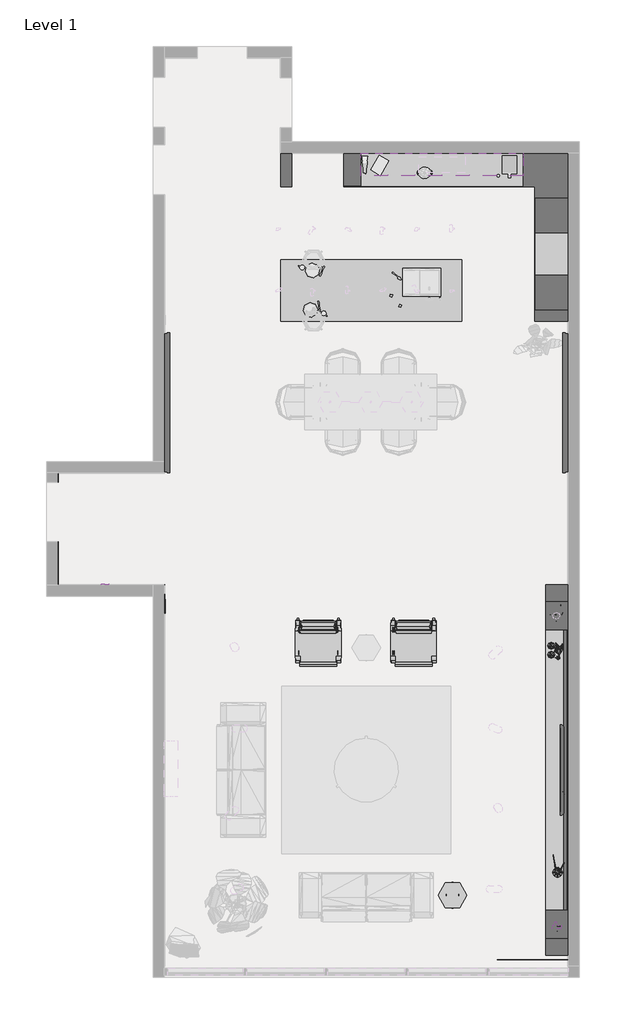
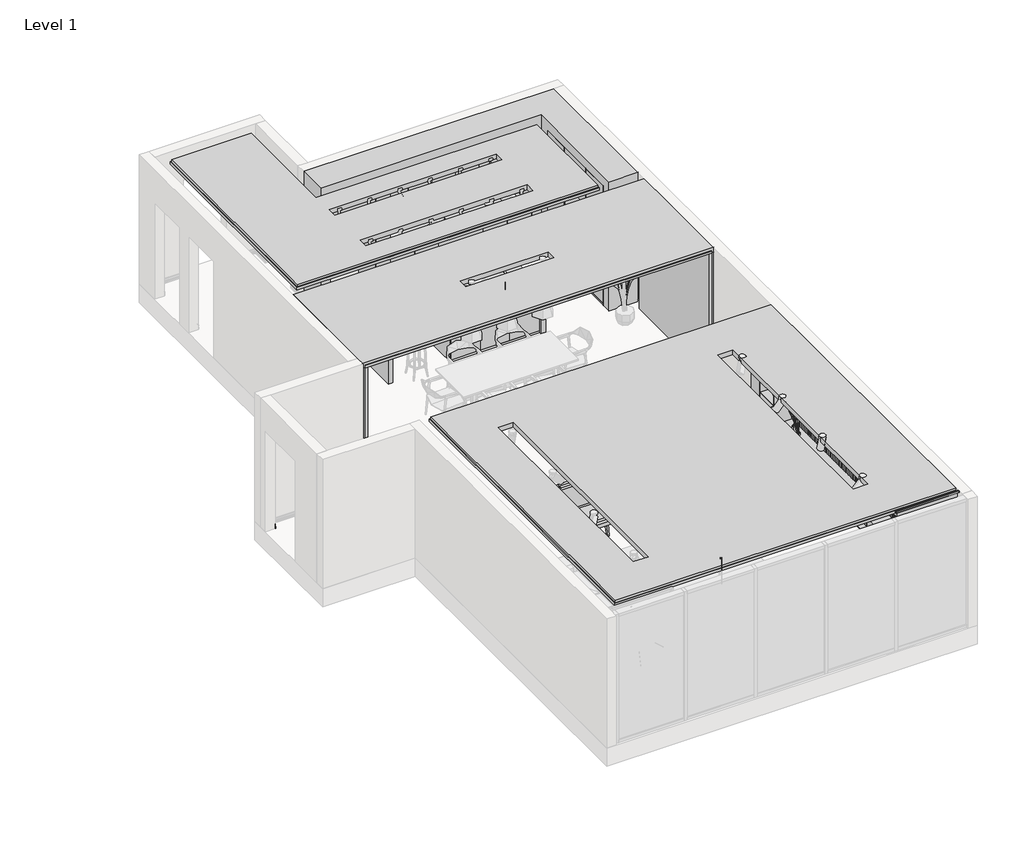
# One storey, part 2 of 4: 23 geographic elements, 9 proxies.
"""IFC4 building model written with IfcOpenShell, lengths in millimetres."""

from ifc_helpers import new_model, si_unit, frame, origin, place, context, project, spatial, polyline, circle_curve, ellipse_curve, transform, mapped, element, save
from ifc_brep_helpers import plane_surface, cylinder_surface, revolved_surface, advanced_brep
from components import generic_models_1_generic_models_1_6ccf1b33, generic_models_2_generic_models_2_3a1a0cb3, generic_models_3_generic_models_3_384174a5, generic_models_4_generic_models_4_fcc66a8b, generic_models_5_generic_models_5_4ff0fdc9, generic_models_6_generic_models_6_49623b60, generic_models_7_generic_models_7_ece231a0, geographic_element_75971b2c, geographic_element_7c65a5d7, geographic_element_906ff1fe, geographic_element_780d2d84, geographic_element_9156fac0, geographic_element_e6de441b, geographic_element_89dd2758, enscape_assetdefinition_armchair_027_enscape_assetdefinition_4c4723be, enscape_assetdefinition_books_003_enscape_assetdefinition_db4c60ca, enscape_assetdefinition_curtain_001_enscape_assetdefinition_ad6f74d6, enscape_assetdefinition_framed_photo_001_enscape_9ab4174a, enscape_assetdefinition_light_switch_001_enscape_6b1c9711, enscape_assetdefinition_power_socket_001_enscape_5ca5412b, enscape_assetdefinition_speaker_011_enscape_assetdefinition_b5ab8f96, enscape_assetdefinition_tv_002_enscape_assetdefinition_tv_89844956, enscape_assetdefinition_table_072_enscape_assetdefinition_da9baf0f, enscape_assetdefinition_vase_048_paper_palm_enscape_44c84509

model = new_model("IFC4")

# Units and contexts
model_context = context("Model", 3, world=origin())
ifc_project = project(units=[si_unit("LENGTHUNIT", "METRE", prefix="MILLI")], contexts=[model_context])

# Site, building, storey
site = spatial("IfcSite", under=ifc_project)
building = spatial("IfcBuilding", under=site)
storey = spatial("IfcBuildingStorey", under=building, Name="Level 1", Elevation=0.0)

# Proxies
placement = place(None, origin())
element("IfcBuildingElementProxy", 1, Name="Brick Soldier Course 2", ObjectType="Brick Soldier Course 2", at=placement, inside=storey, context=model_context, shape_type="AdvancedBrep", body=[
    advanced_brep(
    [(3277.9525098, 887.7866664, 100.0), (3277.9525098, 887.7866664, 0.0), (3291.0803378, 900.9144945, 0.0), (3285.5847618, 895.4189185, 16.7363778), (3284.220014, 894.0541707, 17.9313406), (3282.9525098, 892.7866664, 17.9313406), (3282.9525098, 892.7866664, 25.0), (3283.9895572, 893.8237139, 25.0), (3285.4407832, 895.2749399, 26.451226), (3285.4407832, 895.2749399, 48.5), (3283.9407832, 893.7749399, 50.0), (3280.4407832, 890.2749399, 50.0), (3280.4407832, 890.2749399, 90.0), (3281.5159518, 891.3501085, 90.0), (3282.9525098, 892.7866664, 91.4365579), (3282.9525098, 892.7866664, 95.9967275), (3278.9492372, 888.7833939, 100.0), (1377.9525098, 887.7866664, 100.0), (1377.9525098, 888.7833939, 100.0), (1377.9525098, 892.7866664, 95.9967275), (1377.9525098, 892.7866664, 91.4365579), (1377.9525098, 891.3501085, 90.0), (1377.9525098, 890.2749399, 90.0), (1377.9525098, 890.2749399, 50.0), (1377.9525098, 893.7749399, 50.0), (1377.9525098, 895.2749399, 48.5), (1377.9525098, 895.2749399, 26.451226), (1377.9525098, 893.8237139, 25.0), (1377.9525098, 892.7866664, 25.0), (1377.9525098, 892.7866664, 17.9313406), (1377.9525098, 894.0541707, 17.9313406), (1377.9525098, 895.4189185, 16.7363778), (1377.9525098, 900.9144945, 0.0), (1377.9525098, 887.7866664, 0.0)],
    [
        (0, 1),
        (1, 2),
        (2, 3, ellipse_curve(frame((3333.0974268, 942.9315835, 23.0672348), z_axis=(-0.7071067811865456, 0.7071067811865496, 0.0), x_axis=(-0.7071067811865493, -0.7071067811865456, 0.0)), 67.7869174, 47.932589)),
        (3, 4, ellipse_curve(frame((3284.220014, 894.0541707, 16.554531), z_axis=(0.7071067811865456, -0.7071067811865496, 0.0), x_axis=(0.7071067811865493, 0.7071067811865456, 0.0)), 1.9471028, 1.3768096)),
        (4, 5),
        (5, 6),
        (6, 7),
        (7, 8, ellipse_curve(frame((3283.9895572, 893.8237139, 26.451226), z_axis=(0.7071067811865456, -0.7071067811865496, 0.0), x_axis=(0.7071067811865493, 0.7071067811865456, 0.0)), 2.0523435, 1.451226)),
        (8, 9),
        (9, 10, ellipse_curve(frame((3283.9407832, 893.7749399, 48.5), z_axis=(0.7071067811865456, -0.7071067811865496, 0.0), x_axis=(0.7071067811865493, 0.7071067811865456, 0.0)), 2.1213203, 1.5)),
        (10, 11),
        (11, 12),
        (12, 13),
        (13, 14, ellipse_curve(frame((3281.5159518, 891.3501085, 91.4365579), z_axis=(0.7071067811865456, -0.7071067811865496, 0.0), x_axis=(0.7071067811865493, 0.7071067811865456, 0.0)), 2.0315997, 1.4365579)),
        (14, 15),
        (15, 16, ellipse_curve(frame((3278.9492372, 888.7833939, 95.9967275), z_axis=(0.7071067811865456, -0.7071067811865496, 0.0), x_axis=(0.7071067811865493, 0.7071067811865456, 0.0)), 5.6614823, 4.0032725)),
        (16, 0),
        (17, 18),
        (18, 19, circle_curve(frame((1377.9525098, 888.7833939, 95.9967275), z_axis=(-1.0, 0.0, 0.0), x_axis=(0.0, 1.0, 0.0)), 4.0032725)),
        (19, 20),
        (20, 21, circle_curve(frame((1377.9525098, 891.3501085, 91.4365579), z_axis=(-1.0, 0.0, 0.0), x_axis=(0.0, 1.0, 0.0)), 1.4365579)),
        (21, 22),
        (22, 23),
        (23, 24),
        (24, 25, circle_curve(frame((1377.9525098, 893.7749399, 48.5), z_axis=(-1.0, 0.0, 0.0), x_axis=(0.0, 1.0, 0.0)), 1.5)),
        (25, 26),
        (26, 27, circle_curve(frame((1377.9525098, 893.8237139, 26.451226), z_axis=(-1.0, 0.0, 0.0), x_axis=(0.0, 1.0, 0.0)), 1.451226)),
        (27, 28),
        (28, 29),
        (29, 30),
        (30, 31, circle_curve(frame((1377.9525098, 894.0541707, 16.554531), z_axis=(-1.0, 0.0, 0.0), x_axis=(0.0, 1.0, 0.0)), 1.3768096)),
        (31, 32, circle_curve(frame((1377.9525098, 942.9315835, 23.0672348), z_axis=(1.0, 0.0, 0.0), x_axis=(0.0, 1.0, 0.0)), 47.932589)),
        (32, 33),
        (33, 17),
        (0, 17),
        (33, 1),
        (32, 2),
        (31, 3),
        (30, 4),
        (29, 5),
        (28, 6),
        (27, 7),
        (26, 8),
        (25, 9),
        (24, 10),
        (23, 11),
        (22, 12),
        (21, 13),
        (20, 14),
        (19, 15),
        (18, 16),
    ],
    [
        plane_surface(frame((3277.9525098, 887.7866664, -304.8), z_axis=(0.7071067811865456, -0.7071067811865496, 0.0), x_axis=(-0.7071067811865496, -0.7071067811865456, 0.0))),
        plane_surface(frame((1377.9525098, 887.7866664, -100.0049672), z_axis=(-1.0, 0.0, 0.0), x_axis=(0.0, -1.0, 0.0))),
        plane_surface(frame((3277.9525098, 887.7866664, 100.0), z_axis=(0.0, -1.0, 0.0), x_axis=(-1.0, 0.0, 0.0))),
        plane_surface(frame((3277.9525098, 887.7866664, 0.0), z_axis=(0.0, 0.0, -1.0), x_axis=(-1.0, 0.0, 0.0))),
        revolved_surface(polyline([(1377.9525098, 990.8641725, 23.0672348), (3381.0300157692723, 990.8641725, 23.0672348)]), (3277.9525098, 942.9315835, 23.0672348), (-1.0, 0.0, 0.0)),
        cylinder_surface(frame((3277.9525098, 894.0541707, 16.554531), z_axis=(1.0, 0.0, 0.0), x_axis=(0.0, 1.0, 0.0)), 1.3768096),
        plane_surface(frame((3284.220014, 894.0541707, 17.9313406), z_axis=(0.0, 0.0, 1.0), x_axis=(-1.0, 0.0, 0.0))),
        plane_surface(frame((3282.9525098, 892.7866664, 17.9313406), z_axis=(0.0, 1.0, 0.0), x_axis=(-1.0, 0.0, 0.0))),
        plane_surface(frame((3282.9525098, 892.7866664, 25.0), z_axis=(0.0, 0.0, -1.0), x_axis=(-1.0, 0.0, 0.0))),
        cylinder_surface(frame((3277.9525098, 893.8237139, 26.451226), z_axis=(1.0, 0.0, 0.0), x_axis=(0.0, 1.0, 0.0)), 1.451226),
        plane_surface(frame((3285.4407832, 895.2749399, 26.451226), z_axis=(0.0, 1.0, 0.0), x_axis=(-1.0, 0.0, 0.0))),
        cylinder_surface(frame((3277.9525098, 893.7749399, 48.5), z_axis=(1.0, 0.0, 0.0), x_axis=(0.0, 1.0, 0.0)), 1.5),
        plane_surface(frame((3283.9407832, 893.7749399, 50.0), z_axis=(0.0, 0.0, 1.0), x_axis=(-1.0, 0.0, 0.0))),
        plane_surface(frame((3280.4407832, 890.2749399, 50.0), z_axis=(0.0, 1.0, 0.0), x_axis=(-1.0, 0.0, 0.0))),
        plane_surface(frame((3280.4407832, 890.2749399, 90.0), z_axis=(0.0, 0.0, -1.0), x_axis=(-1.0, 0.0, 0.0))),
        cylinder_surface(frame((3277.9525098, 891.3501085, 91.4365579), z_axis=(1.0, 0.0, 0.0), x_axis=(0.0, 1.0, 0.0)), 1.4365579),
        plane_surface(frame((3282.9525098, 892.7866664, 91.4365579), z_axis=(0.0, 1.0, 0.0), x_axis=(-1.0, 0.0, 0.0))),
        cylinder_surface(frame((3277.9525098, 888.7833939, 95.9967275), z_axis=(1.0, 0.0, 0.0), x_axis=(0.0, 1.0, 0.0)), 4.0032725),
        plane_surface(frame((3278.9492372, 888.7833939, 100.0), z_axis=(0.0, 0.0, 1.0), x_axis=(-1.0, 0.0, 0.0))),
    ],
    [
        (0, [[1, 2, 3, 4, 5, 6, 7, 8, 9, 10, 11, 12, 13, 14, 15, 16, 17]]),
        (1, [[18, 19, 20, 21, 22, 23, 24, 25, 26, 27, 28, 29, 30, 31, 32, 33, 34]]),
        (2, [[-1, 35, -34, 36]]),
        (3, [[-2, -36, -33, 37]]),
        (4, [[-3, -37, -32, 38]]),
        (5, [[-4, -38, -31, 39]]),
        (6, [[-5, -39, -30, 40]]),
        (7, [[-6, -40, -29, 41]]),
        (8, [[-7, -41, -28, 42]]),
        (9, [[-8, -42, -27, 43]]),
        (10, [[-9, -43, -26, 44]]),
        (11, [[-10, -44, -25, 45]]),
        (12, [[-11, -45, -24, 46]]),
        (13, [[-12, -46, -23, 47]]),
        (14, [[-13, -47, -22, 48]]),
        (15, [[-14, -48, -21, 49]]),
        (16, [[-15, -49, -20, 50]]),
        (17, [[-16, -50, -19, 51]]),
        (18, [[-17, -51, -18, -35]]),
    ],
),
])
element("IfcBuildingElementProxy", 2, Name="Brick Soldier Course 2", ObjectType="Brick Soldier Course 2", at=placement, inside=storey, context=model_context, shape_type="AdvancedBrep", body=[
    advanced_brep(
    [(1377.9525098, 2717.7866664, 100.0), (1377.9525098, 2717.7866664, 0.0), (1391.0803378, 2717.7866664, 0.0), (1385.5847618, 2717.7866664, 16.7363778), (1384.220014, 2717.7866664, 17.9313406), (1382.9525098, 2717.7866664, 17.9313406), (1382.9525098, 2717.7866664, 25.0), (1383.9895572, 2717.7866664, 25.0), (1385.4407832, 2717.7866664, 26.451226), (1385.4407832, 2717.7866664, 48.5), (1383.9407832, 2717.7866664, 50.0), (1380.4407832, 2717.7866664, 50.0), (1380.4407832, 2717.7866664, 90.0), (1381.5159518, 2717.7866664, 90.0), (1382.9525098, 2717.7866664, 91.4365579), (1382.9525098, 2717.7866664, 95.9967275), (1378.9492372, 2717.7866664, 100.0), (1377.9525098, 2887.7866664, 100.0), (1378.9492372, 2886.7899389, 100.0), (1382.9525098, 2882.7866664, 95.9967275), (1382.9525098, 2882.7866664, 91.4365579), (1381.5159518, 2884.2232244, 90.0), (1380.4407832, 2885.298393, 90.0), (1380.4407832, 2885.298393, 50.0), (1383.9407832, 2881.798393, 50.0), (1385.4407832, 2880.298393, 48.5), (1385.4407832, 2880.298393, 26.451226), (1383.9895572, 2881.749619, 25.0), (1382.9525098, 2882.7866664, 25.0), (1382.9525098, 2882.7866664, 17.9313406), (1384.220014, 2881.5191621, 17.9313406), (1385.5847618, 2880.1544144, 16.7363778), (1391.0803378, 2874.6588383, 0.0), (1377.9525098, 2887.7866664, 0.0)],
    [
        (0, 1),
        (1, 2),
        (2, 3, circle_curve(frame((1433.0974268, 2717.7866664, 23.0672348), z_axis=(0.0, 1.0, 0.0), x_axis=(1.0, 0.0, 0.0)), 47.932589)),
        (3, 4, circle_curve(frame((1384.220014, 2717.7866664, 16.554531), z_axis=(0.0, -1.0, 0.0), x_axis=(1.0, 0.0, 0.0)), 1.3768096)),
        (4, 5),
        (5, 6),
        (6, 7),
        (7, 8, circle_curve(frame((1383.9895572, 2717.7866664, 26.451226), z_axis=(0.0, -1.0, 0.0), x_axis=(1.0, 0.0, 0.0)), 1.451226)),
        (8, 9),
        (9, 10, circle_curve(frame((1383.9407832, 2717.7866664, 48.5), z_axis=(0.0, -1.0, 0.0), x_axis=(1.0, 0.0, 0.0)), 1.5)),
        (10, 11),
        (11, 12),
        (12, 13),
        (13, 14, circle_curve(frame((1381.5159518, 2717.7866664, 91.4365579), z_axis=(0.0, -1.0, 0.0), x_axis=(1.0, 0.0, 0.0)), 1.4365579)),
        (14, 15),
        (15, 16, circle_curve(frame((1378.9492372, 2717.7866664, 95.9967275), z_axis=(0.0, -1.0, 0.0), x_axis=(1.0, 0.0, 0.0)), 4.0032725)),
        (16, 0),
        (17, 18),
        (18, 19, ellipse_curve(frame((1378.9492372, 2886.7899389, 95.9967275), z_axis=(0.7071067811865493, 0.7071067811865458, 0.0), x_axis=(0.7071067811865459, -0.7071067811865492, 0.0)), 5.6614823, 4.0032725)),
        (19, 20),
        (20, 21, ellipse_curve(frame((1381.5159518, 2884.2232244, 91.4365579), z_axis=(0.7071067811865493, 0.7071067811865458, 0.0), x_axis=(0.7071067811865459, -0.7071067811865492, 0.0)), 2.0315997, 1.4365579)),
        (21, 22),
        (22, 23),
        (23, 24),
        (24, 25, ellipse_curve(frame((1383.9407832, 2881.798393, 48.5), z_axis=(0.7071067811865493, 0.7071067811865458, 0.0), x_axis=(0.7071067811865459, -0.7071067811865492, 0.0)), 2.1213203, 1.5)),
        (25, 26),
        (26, 27, ellipse_curve(frame((1383.9895572, 2881.749619, 26.451226), z_axis=(0.7071067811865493, 0.7071067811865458, 0.0), x_axis=(0.7071067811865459, -0.7071067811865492, 0.0)), 2.0523435, 1.451226)),
        (27, 28),
        (28, 29),
        (29, 30),
        (30, 31, ellipse_curve(frame((1384.220014, 2881.5191621, 16.554531), z_axis=(0.7071067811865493, 0.7071067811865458, 0.0), x_axis=(0.7071067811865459, -0.7071067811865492, 0.0)), 1.9471028, 1.3768096)),
        (31, 32, ellipse_curve(frame((1433.0974268, 2832.6417494, 23.0672348), z_axis=(-0.7071067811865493, -0.7071067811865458, 0.0), x_axis=(-0.7071067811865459, 0.7071067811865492, 0.0)), 67.7869174, 47.932589)),
        (32, 33),
        (33, 17),
        (0, 17),
        (33, 1),
        (32, 2),
        (31, 3),
        (30, 4),
        (29, 5),
        (28, 6),
        (27, 7),
        (26, 8),
        (25, 9),
        (24, 10),
        (23, 11),
        (22, 12),
        (21, 13),
        (20, 14),
        (19, 15),
        (18, 16),
    ],
    [
        plane_surface(frame((1277.9475425, 2717.7866664, 0.0), z_axis=(0.0, -1.0, 0.0), x_axis=(0.0, 0.0, 1.0))),
        plane_surface(frame((1377.9525098, 2887.7866664, 304.8), z_axis=(0.7071067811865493, 0.7071067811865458, 0.0), x_axis=(0.7071067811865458, -0.7071067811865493, 0.0))),
        plane_surface(frame((1377.9525098, 2717.7866664, 100.0), z_axis=(-1.0, 0.0, 0.0), x_axis=(0.0, 1.0, 0.0))),
        plane_surface(frame((1377.9525098, 2717.7866664, 0.0), z_axis=(0.0, 0.0, -1.0), x_axis=(0.0, 1.0, 0.0))),
        revolved_surface(polyline([(1481.0300158, 2880.5743383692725, 23.0672348), (1481.0300158, 2717.7866664, 23.0672348)]), (1433.0974268, 2717.7866664, 23.0672348), (0.0, 1.0, 0.0)),
        cylinder_surface(frame((1384.220014, 2717.7866664, 16.554531), z_axis=(0.0, -1.0, 0.0), x_axis=(1.0, 0.0, 0.0)), 1.3768096),
        plane_surface(frame((1384.220014, 2717.7866664, 17.9313406), z_axis=(0.0, 0.0, 1.0), x_axis=(0.0, 1.0, 0.0))),
        plane_surface(frame((1382.9525098, 2717.7866664, 17.9313406), z_axis=(1.0, 0.0, 0.0), x_axis=(0.0, 1.0, 0.0))),
        plane_surface(frame((1382.9525098, 2717.7866664, 25.0), z_axis=(0.0, 0.0, -1.0), x_axis=(0.0, 1.0, 0.0))),
        cylinder_surface(frame((1383.9895572, 2717.7866664, 26.451226), z_axis=(0.0, -1.0, 0.0), x_axis=(1.0, 0.0, 0.0)), 1.451226),
        plane_surface(frame((1385.4407832, 2717.7866664, 26.451226), z_axis=(1.0, 0.0, 0.0), x_axis=(0.0, 1.0, 0.0))),
        cylinder_surface(frame((1383.9407832, 2717.7866664, 48.5), z_axis=(0.0, -1.0, 0.0), x_axis=(1.0, 0.0, 0.0)), 1.5),
        plane_surface(frame((1383.9407832, 2717.7866664, 50.0), z_axis=(0.0, 0.0, 1.0), x_axis=(0.0, 1.0, 0.0))),
        plane_surface(frame((1380.4407832, 2717.7866664, 50.0), z_axis=(1.0, 0.0, 0.0), x_axis=(0.0, 1.0, 0.0))),
        plane_surface(frame((1380.4407832, 2717.7866664, 90.0), z_axis=(0.0, 0.0, -1.0), x_axis=(0.0, 1.0, 0.0))),
        cylinder_surface(frame((1381.5159518, 2717.7866664, 91.4365579), z_axis=(0.0, -1.0, 0.0), x_axis=(1.0, 0.0, 0.0)), 1.4365579),
        plane_surface(frame((1382.9525098, 2717.7866664, 91.4365579), z_axis=(1.0, 0.0, 0.0), x_axis=(0.0, 1.0, 0.0))),
        cylinder_surface(frame((1378.9492372, 2717.7866664, 95.9967275), z_axis=(0.0, -1.0, 0.0), x_axis=(1.0, 0.0, 0.0)), 4.0032725),
        plane_surface(frame((1378.9492372, 2717.7866664, 100.0), z_axis=(0.0, 0.0, 1.0), x_axis=(0.0, 1.0, 0.0))),
    ],
    [
        (0, [[1, 2, 3, 4, 5, 6, 7, 8, 9, 10, 11, 12, 13, 14, 15, 16, 17]]),
        (1, [[18, 19, 20, 21, 22, 23, 24, 25, 26, 27, 28, 29, 30, 31, 32, 33, 34]]),
        (2, [[-1, 35, -34, 36]]),
        (3, [[-2, -36, -33, 37]]),
        (4, [[-3, -37, -32, 38]]),
        (5, [[-4, -38, -31, 39]]),
        (6, [[-5, -39, -30, 40]]),
        (7, [[-6, -40, -29, 41]]),
        (8, [[-7, -41, -28, 42]]),
        (9, [[-8, -42, -27, 43]]),
        (10, [[-9, -43, -26, 44]]),
        (11, [[-10, -44, -25, 45]]),
        (12, [[-11, -45, -24, 46]]),
        (13, [[-12, -46, -23, 47]]),
        (14, [[-13, -47, -22, 48]]),
        (15, [[-14, -48, -21, 49]]),
        (16, [[-15, -49, -20, 50]]),
        (17, [[-16, -50, -19, 51]]),
        (18, [[-17, -51, -18, -35]]),
    ],
),
    advanced_brep(
    [(1377.9525098, 887.7866664, 100.0), (1377.9525098, 887.7866664, 0.0), (1391.0803378, 900.9144945, 0.0), (1385.5847618, 895.4189185, 16.7363778), (1384.220014, 894.0541707, 17.9313406), (1382.9525098, 892.7866664, 17.9313406), (1382.9525098, 892.7866664, 25.0), (1383.9895572, 893.8237139, 25.0), (1385.4407832, 895.2749399, 26.451226), (1385.4407832, 895.2749399, 48.5), (1383.9407832, 893.7749399, 50.0), (1380.4407832, 890.2749399, 50.0), (1380.4407832, 890.2749399, 90.0), (1381.5159518, 891.3501085, 90.0), (1382.9525098, 892.7866664, 91.4365579), (1382.9525098, 892.7866664, 95.9967275), (1378.9492372, 888.7833939, 100.0), (1377.9525098, 1657.7866664, 100.0), (1378.9492372, 1657.7866664, 100.0), (1382.9525098, 1657.7866664, 95.9967275), (1382.9525098, 1657.7866664, 91.4365579), (1381.5159518, 1657.7866664, 90.0), (1380.4407832, 1657.7866664, 90.0), (1380.4407832, 1657.7866664, 50.0), (1383.9407832, 1657.7866664, 50.0), (1385.4407832, 1657.7866664, 48.5), (1385.4407832, 1657.7866664, 26.451226), (1383.9895572, 1657.7866664, 25.0), (1382.9525098, 1657.7866664, 25.0), (1382.9525098, 1657.7866664, 17.9313406), (1384.220014, 1657.7866664, 17.9313406), (1385.5847618, 1657.7866664, 16.7363778), (1391.0803378, 1657.7866664, 0.0), (1377.9525098, 1657.7866664, 0.0)],
    [
        (0, 1),
        (1, 2),
        (2, 3, ellipse_curve(frame((1433.0974268, 942.9315835, 23.0672348), z_axis=(-0.707106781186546, 0.7071067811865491, 0.0), x_axis=(0.7071067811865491, 0.7071067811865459, 0.0)), 67.7869174, 47.932589)),
        (3, 4, ellipse_curve(frame((1384.220014, 894.0541707, 16.554531), z_axis=(0.707106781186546, -0.7071067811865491, 0.0), x_axis=(-0.7071067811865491, -0.7071067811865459, 0.0)), 1.9471028, 1.3768096)),
        (4, 5),
        (5, 6),
        (6, 7),
        (7, 8, ellipse_curve(frame((1383.9895572, 893.8237139, 26.451226), z_axis=(0.707106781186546, -0.7071067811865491, 0.0), x_axis=(-0.7071067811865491, -0.7071067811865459, 0.0)), 2.0523435, 1.451226)),
        (8, 9),
        (9, 10, ellipse_curve(frame((1383.9407832, 893.7749399, 48.5), z_axis=(0.707106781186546, -0.7071067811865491, 0.0), x_axis=(-0.7071067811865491, -0.7071067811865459, 0.0)), 2.1213203, 1.5)),
        (10, 11),
        (11, 12),
        (12, 13),
        (13, 14, ellipse_curve(frame((1381.5159518, 891.3501085, 91.4365579), z_axis=(0.707106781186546, -0.7071067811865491, 0.0), x_axis=(-0.7071067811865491, -0.7071067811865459, 0.0)), 2.0315997, 1.4365579)),
        (14, 15),
        (15, 16, ellipse_curve(frame((1378.9492372, 888.7833939, 95.9967275), z_axis=(0.707106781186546, -0.7071067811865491, 0.0), x_axis=(-0.7071067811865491, -0.7071067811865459, 0.0)), 5.6614823, 4.0032725)),
        (16, 0),
        (17, 18),
        (18, 19, circle_curve(frame((1378.9492372, 1657.7866664, 95.9967275), z_axis=(0.0, 1.0, 0.0), x_axis=(1.0, 0.0, 0.0)), 4.0032725)),
        (19, 20),
        (20, 21, circle_curve(frame((1381.5159518, 1657.7866664, 91.4365579), z_axis=(0.0, 1.0, 0.0), x_axis=(1.0, 0.0, 0.0)), 1.4365579)),
        (21, 22),
        (22, 23),
        (23, 24),
        (24, 25, circle_curve(frame((1383.9407832, 1657.7866664, 48.5), z_axis=(0.0, 1.0, 0.0), x_axis=(1.0, 0.0, 0.0)), 1.5)),
        (25, 26),
        (26, 27, circle_curve(frame((1383.9895572, 1657.7866664, 26.451226), z_axis=(0.0, 1.0, 0.0), x_axis=(1.0, 0.0, 0.0)), 1.451226)),
        (27, 28),
        (28, 29),
        (29, 30),
        (30, 31, circle_curve(frame((1384.220014, 1657.7866664, 16.554531), z_axis=(0.0, 1.0, 0.0), x_axis=(1.0, 0.0, 0.0)), 1.3768096)),
        (31, 32, circle_curve(frame((1433.0974268, 1657.7866664, 23.0672348), z_axis=(0.0, -1.0, 0.0), x_axis=(1.0, 0.0, 0.0)), 47.932589)),
        (32, 33),
        (33, 17),
        (0, 17),
        (33, 1),
        (32, 2),
        (31, 3),
        (30, 4),
        (29, 5),
        (28, 6),
        (27, 7),
        (26, 8),
        (25, 9),
        (24, 10),
        (23, 11),
        (22, 12),
        (21, 13),
        (20, 14),
        (19, 15),
        (18, 16),
    ],
    [
        plane_surface(frame((1377.9525098, 887.7866664, 304.8), z_axis=(0.707106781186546, -0.7071067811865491, 0.0), x_axis=(0.7071067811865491, 0.707106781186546, 0.0))),
        plane_surface(frame((1277.9475425, 1657.7866664, 0.0), z_axis=(0.0, 1.0, 0.0), x_axis=(0.0, 0.0, 1.0))),
        plane_surface(frame((1377.9525098, 887.7866664, 100.0), z_axis=(-1.0, 0.0, 0.0), x_axis=(0.0, 1.0, 0.0))),
        plane_surface(frame((1377.9525098, 887.7866664, 0.0), z_axis=(0.0, 0.0, -1.0), x_axis=(0.0, 1.0, 0.0))),
        revolved_surface(polyline([(1481.0300158, 1657.7866664, 23.0672348), (1481.0300158, 894.9989945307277, 23.0672348)]), (1433.0974268, 887.7866664, 23.0672348), (0.0, 1.0, 0.0)),
        cylinder_surface(frame((1384.220014, 887.7866664, 16.554531), z_axis=(0.0, -1.0, 0.0), x_axis=(1.0, 0.0, 0.0)), 1.3768096),
        plane_surface(frame((1384.220014, 894.0541707, 17.9313406), z_axis=(0.0, 0.0, 1.0), x_axis=(0.0, 1.0, 0.0))),
        plane_surface(frame((1382.9525098, 892.7866664, 17.9313406), z_axis=(1.0, 0.0, 0.0), x_axis=(0.0, 1.0, 0.0))),
        plane_surface(frame((1382.9525098, 892.7866664, 25.0), z_axis=(0.0, 0.0, -1.0), x_axis=(0.0, 1.0, 0.0))),
        cylinder_surface(frame((1383.9895572, 887.7866664, 26.451226), z_axis=(0.0, -1.0, 0.0), x_axis=(1.0, 0.0, 0.0)), 1.451226),
        plane_surface(frame((1385.4407832, 895.2749399, 26.451226), z_axis=(1.0, 0.0, 0.0), x_axis=(0.0, 1.0, 0.0))),
        cylinder_surface(frame((1383.9407832, 887.7866664, 48.5), z_axis=(0.0, -1.0, 0.0), x_axis=(1.0, 0.0, 0.0)), 1.5),
        plane_surface(frame((1383.9407832, 893.7749399, 50.0), z_axis=(0.0, 0.0, 1.0), x_axis=(0.0, 1.0, 0.0))),
        plane_surface(frame((1380.4407832, 890.2749399, 50.0), z_axis=(1.0, 0.0, 0.0), x_axis=(0.0, 1.0, 0.0))),
        plane_surface(frame((1380.4407832, 890.2749399, 90.0), z_axis=(0.0, 0.0, -1.0), x_axis=(0.0, 1.0, 0.0))),
        cylinder_surface(frame((1381.5159518, 887.7866664, 91.4365579), z_axis=(0.0, -1.0, 0.0), x_axis=(1.0, 0.0, 0.0)), 1.4365579),
        plane_surface(frame((1382.9525098, 892.7866664, 91.4365579), z_axis=(1.0, 0.0, 0.0), x_axis=(0.0, 1.0, 0.0))),
        cylinder_surface(frame((1378.9492372, 887.7866664, 95.9967275), z_axis=(0.0, -1.0, 0.0), x_axis=(1.0, 0.0, 0.0)), 4.0032725),
        plane_surface(frame((1378.9492372, 888.7833939, 100.0), z_axis=(0.0, 0.0, 1.0), x_axis=(0.0, 1.0, 0.0))),
    ],
    [
        (0, [[1, 2, 3, 4, 5, 6, 7, 8, 9, 10, 11, 12, 13, 14, 15, 16, 17]]),
        (1, [[18, 19, 20, 21, 22, 23, 24, 25, 26, 27, 28, 29, 30, 31, 32, 33, 34]]),
        (2, [[-1, 35, -34, 36]]),
        (3, [[-2, -36, -33, 37]]),
        (4, [[-3, -37, -32, 38]]),
        (5, [[-4, -38, -31, 39]]),
        (6, [[-5, -39, -30, 40]]),
        (7, [[-6, -40, -29, 41]]),
        (8, [[-7, -41, -28, 42]]),
        (9, [[-8, -42, -27, 43]]),
        (10, [[-9, -43, -26, 44]]),
        (11, [[-10, -44, -25, 45]]),
        (12, [[-11, -45, -24, 46]]),
        (13, [[-12, -46, -23, 47]]),
        (14, [[-13, -47, -22, 48]]),
        (15, [[-14, -48, -21, 49]]),
        (16, [[-15, -49, -20, 50]]),
        (17, [[-16, -50, -19, 51]]),
        (18, [[-17, -51, -18, -35]]),
    ],
),
])
generic_models_1_generic_models_1_shape = generic_models_1_generic_models_1_6ccf1b33(model_context)
element("IfcBuildingElementProxy", 3, Name="Generic Models 1 : Generic Models 1", ObjectType="Generic Models 1 : Generic Models 1", at=placement, inside=storey, context=model_context, shape_type="MappedRepresentation", body=[
    mapped(generic_models_1_generic_models_1_shape, transform((0.0, 0.0, 0.0), x_axis=(1.0, 0.0, 0.0), y_axis=(0.0, 1.0, 0.0), z_axis=(0.0, 0.0, 1.0))),
])
generic_models_2_generic_models_2_shape = generic_models_2_generic_models_2_3a1a0cb3(model_context)
element("IfcBuildingElementProxy", 4, Name="Generic Models 2 : Generic Models 2", ObjectType="Generic Models 2 : Generic Models 2", at=placement, inside=storey, context=model_context, shape_type="MappedRepresentation", body=[
    mapped(generic_models_2_generic_models_2_shape, transform((0.0, 0.0, 0.0), x_axis=(1.0, 0.0, 0.0), y_axis=(0.0, 1.0, 0.0), z_axis=(0.0, 0.0, 1.0))),
])
generic_models_3_generic_models_3_shape = generic_models_3_generic_models_3_384174a5(model_context)
element("IfcBuildingElementProxy", 5, Name="Generic Models 3 : Generic Models 3", ObjectType="Generic Models 3 : Generic Models 3", at=placement, inside=storey, context=model_context, shape_type="MappedRepresentation", body=[
    mapped(generic_models_3_generic_models_3_shape, transform((0.0, 0.0, 0.0), x_axis=(1.0, 0.0, 0.0), y_axis=(0.0, 1.0, 0.0), z_axis=(0.0, 0.0, 1.0))),
])
generic_models_4_generic_models_4_shape = generic_models_4_generic_models_4_fcc66a8b(model_context)
element("IfcBuildingElementProxy", 6, Name="Generic Models 4 : Generic Models 4", ObjectType="Generic Models 4 : Generic Models 4", at=placement, inside=storey, context=model_context, shape_type="MappedRepresentation", body=[
    mapped(generic_models_4_generic_models_4_shape, transform((0.0, 0.0, 0.0), x_axis=(1.0, 0.0, 0.0), y_axis=(0.0, 1.0, 0.0), z_axis=(0.0, 0.0, 1.0))),
])
generic_models_5_generic_models_5_shape = generic_models_5_generic_models_5_4ff0fdc9(model_context)
element("IfcBuildingElementProxy", 7, Name="Generic Models 5 : Generic Models 5", ObjectType="Generic Models 5 : Generic Models 5", at=placement, inside=storey, context=model_context, shape_type="MappedRepresentation", body=[
    mapped(generic_models_5_generic_models_5_shape, transform((0.0, 0.0, 0.0), x_axis=(1.0, 0.0, 0.0), y_axis=(0.0, 1.0, 0.0), z_axis=(0.0, 0.0, 1.0))),
])
generic_models_6_generic_models_6_shape = generic_models_6_generic_models_6_49623b60(model_context)
element("IfcBuildingElementProxy", 8, Name="Generic Models 6 : Generic Models 6", ObjectType="Generic Models 6 : Generic Models 6", at=placement, inside=storey, context=model_context, shape_type="MappedRepresentation", body=[
    mapped(generic_models_6_generic_models_6_shape, transform((0.0, 0.0, 0.0), x_axis=(1.0, 0.0, 0.0), y_axis=(0.0, 1.0, 0.0), z_axis=(0.0, 0.0, 1.0))),
])
generic_models_7_generic_models_7_shape = generic_models_7_generic_models_7_ece231a0(model_context)
element("IfcBuildingElementProxy", 9, Name="Generic Models 7 : Generic Models 7", ObjectType="Generic Models 7 : Generic Models 7", at=placement, inside=storey, context=model_context, shape_type="MappedRepresentation", body=[
    mapped(generic_models_7_generic_models_7_shape, transform((0.0, 0.0, 0.0), x_axis=(1.0, 0.0, 0.0), y_axis=(0.0, 1.0, 0.0), z_axis=(0.0, 0.0, 1.0))),
])

# Geographic elements
geographic_element_shape = geographic_element_75971b2c(model_context)
element("IfcGeographicElement", 10, ObjectType="Enscape AssetDefinition - Candle 002 : Enscape AssetDefinition - Candle 002", at=placement, inside=storey, context=model_context, shape_type="MappedRepresentation", body=[
    mapped(geographic_element_shape, transform((10177.9525098, -192.2133336, 800.0), x_axis=(1.0, 0.0, 0.0), y_axis=(0.0, 1.0, 0.0), z_axis=(0.0, 0.0, 1.0))),
])
element("IfcGeographicElement", 11, ObjectType="Enscape AssetDefinition - Candle 002 : Enscape AssetDefinition - Candle 002", at=placement, inside=storey, context=model_context, shape_type="MappedRepresentation", body=[
    mapped(geographic_element_shape, transform((10177.9525098, -352.2133336, 800.0), x_axis=(1.0, 0.0, 0.0), y_axis=(0.0, 1.0, 0.0), z_axis=(0.0, 0.0, 1.0))),
])
element("IfcGeographicElement", 12, ObjectType="Enscape AssetDefinition - Candle 002 : Enscape AssetDefinition - Candle 002", at=placement, inside=storey, context=model_context, shape_type="MappedRepresentation", body=[
    mapped(geographic_element_shape, transform((10292.9525098, -1837.2133336, 608.0), x_axis=(1.0, 0.0, 0.0), y_axis=(0.0, 1.0, 0.0), z_axis=(0.0, 0.0, 1.0))),
])
geographic_element_2_shape = geographic_element_7c65a5d7(model_context)
element("IfcGeographicElement", 13, ObjectType="Enscape AssetDefinition - Candle Tray 002 : Enscape AssetDefinition - Candle Tray 002", at=placement, inside=storey, context=model_context, shape_type="MappedRepresentation", body=[
    mapped(geographic_element_2_shape, transform((10264.6655429, -5161.4738067, 816.0), x_axis=(0.0, 1.0, 0.0), y_axis=(-1.0, 0.0, 0.0), z_axis=(0.0, 0.0, 1.0))),
])
geographic_element_3_shape = geographic_element_906ff1fe(model_context)
element("IfcGeographicElement", 14, ObjectType="Enscape AssetDefinition - Decorative Goods 030 Room Fragrance : Enscape AssetDefinition - Decorative Goods 030 Room Fragrance", at=placement, inside=storey, context=model_context, shape_type="MappedRepresentation", body=[
    mapped(geographic_element_3_shape, transform((10297.9525098, -412.2133336, 800.0), x_axis=(1.0, 0.0, 0.0), y_axis=(0.0, 1.0, 0.0), z_axis=(0.0, 0.0, 1.0))),
])
geographic_element_4_shape = geographic_element_780d2d84(model_context)
element("IfcGeographicElement", 15, ObjectType="Enscape AssetDefinition - Candle 001 : Enscape AssetDefinition - Candle 001", at=placement, inside=storey, context=model_context, shape_type="MappedRepresentation", body=[
    mapped(geographic_element_4_shape, transform((10192.9525098, -1722.2133336, 608.0), x_axis=(1.0, 0.0, 0.0), y_axis=(0.0, 1.0, 0.0), z_axis=(0.0, 0.0, 1.0))),
])
element("IfcGeographicElement", 16, ObjectType="Enscape AssetDefinition - Candle 001 : Enscape AssetDefinition - Candle 001", at=placement, inside=storey, context=model_context, shape_type="MappedRepresentation", body=[
    mapped(geographic_element_4_shape, transform((10167.9525098, -1907.2133336, 608.0), x_axis=(1.0, 0.0, 0.0), y_axis=(0.0, 1.0, 0.0), z_axis=(0.0, 0.0, 1.0))),
])
geographic_element_5_shape = geographic_element_9156fac0(model_context)
element("IfcGeographicElement", 17, ObjectType="Enscape AssetDefinition - Decoration Collection 001 : Enscape AssetDefinition - Decoration Collection 001", at=placement, inside=storey, context=model_context, shape_type="MappedRepresentation", body=[
    mapped(geographic_element_5_shape, transform((10290.4771824, -2744.002216, 416.0), x_axis=(-0.43837114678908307, 0.8987940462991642, 0.0), y_axis=(-0.8987940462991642, -0.43837114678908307, 0.0), z_axis=(0.0, 0.0, 1.0))),
])
geographic_element_6_shape = geographic_element_e6de441b(model_context)
element("IfcGeographicElement", 18, ObjectType="Enscape AssetDefinition - Vase 002 Eucalyptus : Enscape AssetDefinition - Vase 002 Eucalyptus 2", at=placement, inside=storey, context=model_context, shape_type="MappedRepresentation", body=[
    mapped(geographic_element_6_shape, transform((10287.1038731, -4237.794533, 800.0), x_axis=(0.0, 1.0, 0.0), y_axis=(-1.0, 0.0, 0.0), z_axis=(0.0, 0.0, 1.0))),
])
geographic_element_7_shape = geographic_element_89dd2758(model_context)
element("IfcGeographicElement", 19, ObjectType="Enscape AssetDefinition - Intercom 001 : Enscape AssetDefinition - Intercom 001", at=placement, inside=storey, context=model_context, shape_type="MappedRepresentation", body=[
    mapped(geographic_element_7_shape, transform((2217.9525098, 887.7866664, 1500.0), x_axis=(-1.0, 0.0, 0.0), y_axis=(0.0, -1.0, 0.0), z_axis=(0.0, 0.0, 1.0))),
])
enscape_assetdefinition_armchair_027_enscape_assetdefinition_shape = enscape_assetdefinition_armchair_027_enscape_assetdefinition_4c4723be(model_context)
element("IfcGeographicElement", 20, ObjectType="Enscape AssetDefinition - Armchair 027 : Enscape AssetDefinition - Armchair 027", at=placement, inside=storey, context=model_context, shape_type="MappedRepresentation", body=[
    mapped(enscape_assetdefinition_armchair_027_enscape_assetdefinition_shape, transform((7722.1475937, -112.2133336, 0.0), x_axis=(1.0, 0.0, 0.0), y_axis=(0.0, 1.0, 0.0), z_axis=(0.0, 0.0, 1.0))),
])
element("IfcGeographicElement", 21, ObjectType="Enscape AssetDefinition - Armchair 027 : Enscape AssetDefinition - Armchair 027", at=placement, inside=storey, context=model_context, shape_type="MappedRepresentation", body=[
    mapped(enscape_assetdefinition_armchair_027_enscape_assetdefinition_shape, transform((6022.1475937, -112.2133336, 0.0), x_axis=(1.0, 0.0, 0.0), y_axis=(0.0, 1.0, 0.0), z_axis=(0.0, 0.0, 1.0))),
])
enscape_assetdefinition_books_003_enscape_assetdefinition_shape = enscape_assetdefinition_books_003_enscape_assetdefinition_db4c60ca(model_context)
element("IfcGeographicElement", 22, ObjectType="Enscape AssetDefinition - Books 003 : Enscape AssetDefinition - Books 003", at=placement, inside=storey, context=model_context, shape_type="MappedRepresentation", body=[
    mapped(enscape_assetdefinition_books_003_enscape_assetdefinition_shape, transform((10296.5252819, -5171.7754925, 416.0), x_axis=(0.0, -1.0, 0.0), y_axis=(1.0, 0.0, 0.0), z_axis=(0.0, 0.0, 1.0))),
])
enscape_assetdefinition_curtain_001_enscape_assetdefinition_shape = enscape_assetdefinition_curtain_001_enscape_assetdefinition_ad6f74d6(model_context)
element("IfcGeographicElement", 23, ObjectType="Enscape AssetDefinition - Curtain 001 : Enscape AssetDefinition - Curtain 001", at=placement, inside=storey, context=model_context, shape_type="MappedRepresentation", body=[
    mapped(enscape_assetdefinition_curtain_001_enscape_assetdefinition_shape, transform((9837.9525098, -5772.2133336, 0.0), x_axis=(1.0, 0.0, 0.0), y_axis=(0.0, 1.0, 0.0), z_axis=(0.0, 0.0, 1.0))),
])
enscape_assetdefinition_framed_photo_001_enscape_shape = enscape_assetdefinition_framed_photo_001_enscape_9ab4174a(model_context)
element("IfcGeographicElement", 24, ObjectType="Enscape AssetDefinition - Framed Photo 001 : Enscape AssetDefinition - Framed Photo 001", at=placement, inside=storey, context=model_context, shape_type="MappedRepresentation", body=[
    mapped(enscape_assetdefinition_framed_photo_001_enscape_shape, transform((10252.6835048, -5239.5456837, 1216.0), x_axis=(1.0, 0.0, 0.0), y_axis=(0.0, 1.0, 0.0), z_axis=(0.0, 0.0, 1.0))),
])
enscape_assetdefinition_light_switch_001_enscape_shape = enscape_assetdefinition_light_switch_001_enscape_6b1c9711(model_context)
element("IfcGeographicElement", 25, ObjectType="Enscape AssetDefinition - Light Switch 001 : Enscape AssetDefinition - Light Switch 001", at=placement, inside=storey, context=model_context, shape_type="MappedRepresentation", body=[
    mapped(enscape_assetdefinition_light_switch_001_enscape_shape, transform((3277.9525098, 510.2866688, 1100.0), x_axis=(0.0, 1.0, 0.0), y_axis=(-1.0, 0.0, 0.0), z_axis=(0.0, 0.0, 1.0))),
])
element("IfcGeographicElement", 26, ObjectType="Enscape AssetDefinition - Light Switch 001 : Enscape AssetDefinition - Light Switch 001", at=placement, inside=storey, context=model_context, shape_type="MappedRepresentation", body=[
    mapped(enscape_assetdefinition_light_switch_001_enscape_shape, transform((3277.9525098, 424.0366688, 1100.0), x_axis=(0.0, 1.0, 0.0), y_axis=(-1.0, 0.0, 0.0), z_axis=(0.0, 0.0, 1.0))),
])
element("IfcGeographicElement", 27, ObjectType="Enscape AssetDefinition - Light Switch 002 : Enscape AssetDefinition - Light Switch 002", at=placement, inside=storey, context=model_context, shape_type="MappedRepresentation", body=[
    mapped(enscape_assetdefinition_light_switch_001_enscape_shape, transform((3277.9525098, 597.7866688, 1100.0), x_axis=(0.0, 1.0, 0.0), y_axis=(-1.0, 0.0, 0.0), z_axis=(0.0, 0.0, 1.0))),
])
enscape_assetdefinition_power_socket_001_enscape_shape = enscape_assetdefinition_power_socket_001_enscape_5ca5412b(model_context)
element("IfcGeographicElement", 28, ObjectType="Enscape AssetDefinition - Power Socket 001 : Enscape AssetDefinition - Power Socket 001", at=placement, inside=storey, context=model_context, shape_type="MappedRepresentation", body=[
    mapped(enscape_assetdefinition_power_socket_001_enscape_shape, transform((3277.9525098, 685.2866664, 1100.0), x_axis=(0.0, 1.0, 0.0), y_axis=(-1.0, 0.0, 0.0), z_axis=(0.0, 0.0, 1.0))),
])
enscape_assetdefinition_speaker_011_enscape_assetdefinition_shape = enscape_assetdefinition_speaker_011_enscape_assetdefinition_b5ab8f96(model_context)
element("IfcGeographicElement", 29, ObjectType="Enscape AssetDefinition - Speaker 011 : Enscape AssetDefinition - Speaker 011", at=placement, inside=storey, context=model_context, shape_type="MappedRepresentation", body=[
    mapped(enscape_assetdefinition_speaker_011_enscape_assetdefinition_shape, transform((10288.2609946, -5289.1350749, 16.0), x_axis=(1.0, 0.0, 0.0), y_axis=(0.0, 1.0, 0.0), z_axis=(0.0, 0.0, 1.0))),
])
enscape_assetdefinition_tv_002_enscape_assetdefinition_tv_shape = enscape_assetdefinition_tv_002_enscape_assetdefinition_tv_89844956(model_context)
element("IfcGeographicElement", 30, ObjectType="Enscape AssetDefinition - TV 002 : Enscape AssetDefinition - TV 002", at=placement, inside=storey, context=model_context, shape_type="MappedRepresentation", body=[
    mapped(enscape_assetdefinition_tv_002_enscape_assetdefinition_tv_shape, transform((10403.4562389, -2410.6133336, 1545.8850944), x_axis=(0.0, -1.0, 0.0), y_axis=(1.0, 0.0, 0.0), z_axis=(0.0, 0.0, 1.0))),
])
enscape_assetdefinition_table_072_enscape_assetdefinition_shape = enscape_assetdefinition_table_072_enscape_assetdefinition_da9baf0f(model_context)
element("IfcGeographicElement", 31, ObjectType="Enscape AssetDefinition - Table 072 : Enscape AssetDefinition - Table 072", at=placement, inside=storey, context=model_context, shape_type="MappedRepresentation", body=[
    mapped(enscape_assetdefinition_table_072_enscape_assetdefinition_shape, transform((8415.5660203, -4641.5987813, 0.0), x_axis=(1.0, 0.0, 0.0), y_axis=(0.0, 1.0, 0.0), z_axis=(0.0, 0.0, 1.0))),
])
enscape_assetdefinition_vase_048_paper_palm_enscape_shape = enscape_assetdefinition_vase_048_paper_palm_enscape_44c84509(model_context)
element("IfcGeographicElement", 32, ObjectType="Enscape AssetDefinition - Vase 048 Paper Palm : Enscape AssetDefinition - Vase 048 Paper Palm", at=placement, inside=storey, context=model_context, shape_type="MappedRepresentation", body=[
    mapped(enscape_assetdefinition_vase_048_paper_palm_enscape_shape, transform((10302.9133742, -274.0958255, 800.0), x_axis=(0.1391731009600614, 0.9902680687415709, 0.0), y_axis=(-0.9902680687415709, 0.1391731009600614, 0.0), z_axis=(0.0, 0.0, 1.0))),
])

save(model, "model.ifc")
